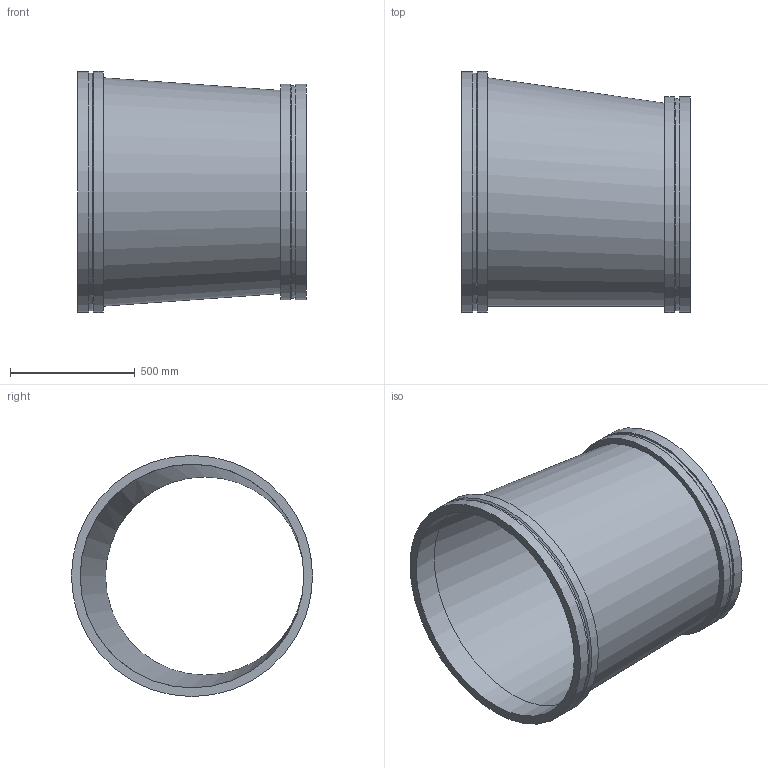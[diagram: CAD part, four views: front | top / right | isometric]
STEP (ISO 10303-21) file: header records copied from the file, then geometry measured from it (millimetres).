
FILE_DESCRIPTION(/* description */ ('VIC REDUCER ECCENTRIC No W51-VR','CAx-IF Rec.Pracs.---Representation and Presentation of Product Manufacturing Information (PMI)---4.0---2014-10-13'),/* implementation_level */ '2;1');
FILE_NAME(/* name */ 'C:\Users\kkamble\AppData\Roaming\Autodesk\ApplicationPlugins\Back Up\Victaulic_Vic-Ring_Reducer Eccentric_No W51 VR (AGR)\Victaulic_Vic-Ring_Reducer Eccentric_No W51 VR (AGR)_36.0x32.0 (900x800).stp',/* time_stamp */ '2020-09-10T11:50:48+05:00',/* author */ ('CONSTRUCTION PIPING SERVICES'),/* organization */ ('Victaulic'),/* preprocessor_version */ 'ST-DEVELOPER v17.2',/* originating_system */ 'Autodesk Inventor 2019',/* authorisation */ '');
FILE_SCHEMA (('AP242_MANAGED_MODEL_BASED_3D_ENGINEERING_MIM_LF { 1 0 10303 442 1 1 4 }'));
Length unit declared in the file: inch
Products named in the file (1): W51 VR-36.0x32.0
Bounding box: 914.4 x 965.2 x 965.2 mm (x, y, z)
Volume: 37142705.2 mm3; surface area: 5347865.1 mm2
Topology: 1 solids, 1 shells, 18 faces, 49 edges, 37 vertices
Faces by surface type: cylinder 8, plane 6, cone 2, bspline 2
Full cylindrical faces by diameter (mm): 793.75 x1, 849.122 x1, 863.6 x2, 895.35 x1, 950.722 x1, 965.2 x2
Entity records: 792 total; most frequent: CARTESIAN_POINT 158, DIRECTION 144, ORIENTED_EDGE 98, AXIS2_PLACEMENT_3D 67, EDGE_CURVE 49, CIRCLE 37, VERTEX_POINT 37, EDGE_LOOP 24
